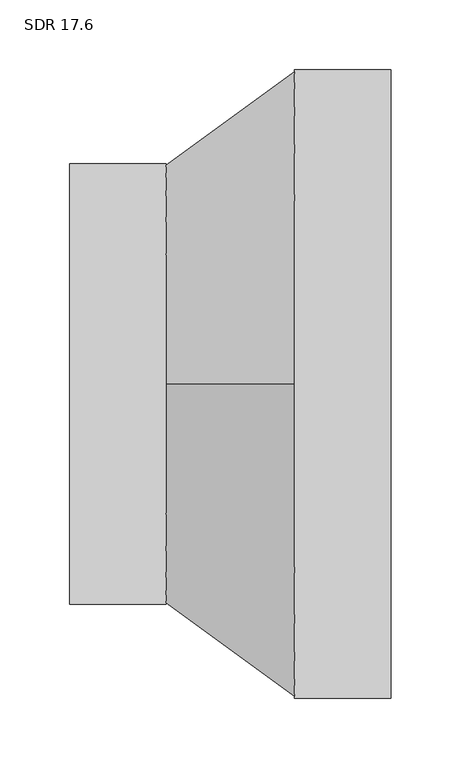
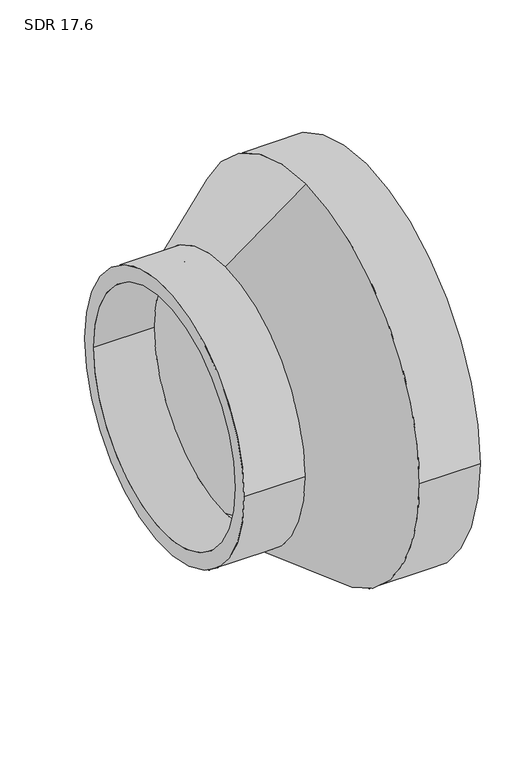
"""IFC4 building model written with IfcOpenShell, lengths in millimetres: pipe fitting geometry, Aquatherm - Reducing Coupling Combined - METRIC : SDR 17.6."""

from ifc_helpers import new_model, si_unit, frame, origin, place, context, project, spatial, polyline, circle_curve, source, transform, mapped, element, save
from ifc_brep_helpers import plane_surface, cylinder_surface, revolved_surface, advanced_brep


def sdr_17_6_6b75fab2(model_context):
    return source(origin(), model_context, "Body", "AdvancedBrep", [
        advanced_brep(
        [(-115.062, -157.48, 0.0), (-115.062, 157.48, 0.0), (-115.062, -139.5845455, 0.0), (-115.062, 139.5845455, 0.0), (-46.0248, 139.5845455, 0.0), (-46.0248, 0.0, 139.5845455), (-46.0248, -139.5845455, 0.0), (-46.0248, 0.0, -139.5845455), (-46.0248, 157.48, 0.0), (-46.0248, 0.0, -157.48), (-46.0248, -157.48, 0.0), (-46.0248, 0.0, 157.48), (115.062, -224.79, 0.0), (115.062, 224.79, 0.0), (115.062, -199.2456818, 0.0), (115.062, 199.2456818, 0.0), (46.0248, -224.79, 0.0), (46.0248, 0.0, -224.79), (46.0248, 224.79, 0.0), (46.0248, 0.0, 224.79), (46.0248, -199.2456818, 0.0), (46.0248, 0.0, 199.2456818), (46.0248, 199.2456818, 0.0), (46.0248, 0.0, -199.2456818)],
        [
            (0, 1, circle_curve(frame((-115.062, 0.0, 0.0), z_axis=(-1.0, 0.0, 0.0), x_axis=(0.0, 1.0, 0.0)), 157.48)),
            (1, 0, circle_curve(frame((-115.062, 0.0, 0.0), z_axis=(-1.0, 0.0, 0.0), x_axis=(0.0, 1.0, 0.0)), 157.48)),
            (2, 3, circle_curve(frame((-115.062, 0.0, 0.0), z_axis=(1.0, 0.0, 0.0), x_axis=(0.0, 1.0, 0.0)), 139.5845455)),
            (3, 2, circle_curve(frame((-115.062, 0.0, 0.0), z_axis=(1.0, 0.0, 0.0), x_axis=(0.0, 1.0, 0.0)), 139.5845455)),
            (3, 4),
            (4, 5, circle_curve(frame((-46.0248, 0.0, 0.0), z_axis=(1.0, 0.0, 0.0), x_axis=(0.0, 1.0, 0.0)), 139.5845455)),
            (5, 6, circle_curve(frame((-46.0248, 0.0, 0.0), z_axis=(1.0, 0.0, 0.0), x_axis=(0.0, 1.0, 0.0)), 139.5845455)),
            (6, 2),
            (6, 7, circle_curve(frame((-46.0248, 0.0, 0.0), z_axis=(1.0, 0.0, 0.0), x_axis=(0.0, 1.0, 0.0)), 139.5845455)),
            (7, 4, circle_curve(frame((-46.0248, 0.0, 0.0), z_axis=(1.0, 0.0, 0.0), x_axis=(0.0, 1.0, 0.0)), 139.5845455)),
            (1, 8),
            (8, 9, circle_curve(frame((-46.0248, 0.0, 0.0), z_axis=(-1.0, 0.0, 0.0), x_axis=(0.0, 1.0, 0.0)), 157.48)),
            (9, 10, circle_curve(frame((-46.0248, 0.0, 0.0), z_axis=(-1.0, 0.0, 0.0), x_axis=(0.0, 1.0, 0.0)), 157.48)),
            (10, 0),
            (10, 11, circle_curve(frame((-46.0248, 0.0, 0.0), z_axis=(-1.0, 0.0, 0.0), x_axis=(0.0, 1.0, 0.0)), 157.48)),
            (11, 8, circle_curve(frame((-46.0248, 0.0, 0.0), z_axis=(-1.0, 0.0, 0.0), x_axis=(0.0, 1.0, 0.0)), 157.48)),
            (12, 13, circle_curve(frame((115.062, 0.0, 0.0), z_axis=(1.0, 0.0, 0.0), x_axis=(0.0, 1.0, 0.0)), 224.79)),
            (13, 12, circle_curve(frame((115.062, 0.0, 0.0), z_axis=(1.0, 0.0, 0.0), x_axis=(0.0, 1.0, 0.0)), 224.79)),
            (14, 15, circle_curve(frame((115.062, 0.0, 0.0), z_axis=(-1.0, 0.0, 0.0), x_axis=(0.0, 1.0, 0.0)), 199.2456818)),
            (15, 14, circle_curve(frame((115.062, 0.0, 0.0), z_axis=(-1.0, 0.0, 0.0), x_axis=(0.0, 1.0, 0.0)), 199.2456818)),
            (12, 16),
            (16, 17, circle_curve(frame((46.0248, 0.0, 0.0), z_axis=(1.0, 0.0, 0.0), x_axis=(0.0, 1.0, 0.0)), 224.79)),
            (17, 18, circle_curve(frame((46.0248, 0.0, 0.0), z_axis=(1.0, 0.0, 0.0), x_axis=(0.0, 1.0, 0.0)), 224.79)),
            (18, 13),
            (18, 19, circle_curve(frame((46.0248, 0.0, 0.0), z_axis=(1.0, 0.0, 0.0), x_axis=(0.0, 1.0, 0.0)), 224.79)),
            (19, 16, circle_curve(frame((46.0248, 0.0, 0.0), z_axis=(1.0, 0.0, 0.0), x_axis=(0.0, 1.0, 0.0)), 224.79)),
            (14, 20),
            (20, 21, circle_curve(frame((46.0248, 0.0, 0.0), z_axis=(-1.0, 0.0, 0.0), x_axis=(0.0, 1.0, 0.0)), 199.2456818)),
            (21, 22, circle_curve(frame((46.0248, 0.0, 0.0), z_axis=(-1.0, 0.0, 0.0), x_axis=(0.0, 1.0, 0.0)), 199.2456818)),
            (22, 15),
            (22, 23, circle_curve(frame((46.0248, 0.0, 0.0), z_axis=(-1.0, 0.0, 0.0), x_axis=(0.0, 1.0, 0.0)), 199.2456818)),
            (23, 20, circle_curve(frame((46.0248, 0.0, 0.0), z_axis=(-1.0, 0.0, 0.0), x_axis=(0.0, 1.0, 0.0)), 199.2456818)),
            (11, 19),
            (17, 9),
            (21, 5),
            (7, 23),
        ],
        [
            plane_surface(frame((-115.062, 139.5845455, 0.0), z_axis=(-1.0, 0.0, 0.0), x_axis=(0.0, 0.0, 1.0))),
            revolved_surface(polyline([(-115.062, 139.5845455, 0.0), (-46.0248, 139.5845455, 0.0)]), (-115.062, 0.0, 0.0), (-1.0, 0.0, 0.0)),
            cylinder_surface(frame((0.0, 0.0, 0.0), z_axis=(1.0, 0.0, 0.0), x_axis=(0.0, 1.0, 0.0)), 157.48),
            plane_surface(frame((115.062, 224.79, 0.0), z_axis=(1.0, 0.0, 0.0), x_axis=(0.0, 0.0, 1.0))),
            cylinder_surface(frame((46.0248, 0.0, 0.0), z_axis=(1.0, 0.0, 0.0), x_axis=(0.0, 1.0, 0.0)), 224.79),
            revolved_surface(polyline([(46.0248, 199.2456818, 0.0), (115.062, 199.2456818, 0.0)]), (0.0, 0.0, 0.0), (-1.0, 0.0, 0.0)),
            revolved_surface(polyline([(46.0248, 0.0, 224.79), (-46.0248, 0.0, 157.48)]), (-690.3215384, 0.0, 0.0), (-1.0, 0.0, 0.0)),
            revolved_surface(polyline([(-46.0248, 0.0, 139.5845455), (46.0248, 0.0, 199.2456818)]), (-690.3215384, 0.0, 0.0), (-1.0, 0.0, 0.0)),
        ],
        [
            (0, [[1, 2], [3, 4]]),
            (1, [[-4, 5, 6, 7, 8]]),
            (1, [[-3, -8, 9, 10, -5]]),
            (2, [[-2, 11, 12, 13, 14]]),
            (2, [[-1, -14, 15, 16, -11]]),
            (3, [[17, 18], [19, 20]]),
            (4, [[-17, 21, 22, 23, 24]]),
            (4, [[-18, -24, 25, 26, -21]]),
            (5, [[-19, 27, 28, 29, 30]]),
            (5, [[-20, -30, 31, 32, -27]]),
            (6, [[33, -25, -23, 34, -12, -16]]),
            (6, [[-33, -15, -13, -34, -22, -26]]),
            (7, [[35, -6, -10, 36, -31, -29]]),
            (7, [[-35, -28, -32, -36, -9, -7]]),
        ],
    ),
    ])


if __name__ == "__main__":
    model = new_model("IFC4")
    model_context = context("Model", 3, world=origin())
    ifc_project = project(units=[si_unit("LENGTHUNIT", "METRE", prefix="MILLI")], contexts=[model_context])
    site = spatial("IfcSite", under=ifc_project)
    building = spatial("IfcBuilding", under=site)
    placement = place(None, origin())
    sdr_17_6_shape = sdr_17_6_6b75fab2(model_context)
    element("IfcPipeFitting", 1, ObjectType="Aquatherm - Reducing Coupling Combined - METRIC : SDR 17.6", at=placement, inside=building, context=model_context, shape_type="MappedRepresentation", body=[
        mapped(sdr_17_6_shape, transform((0.0, 0.0, 0.0), x_axis=(1.0, 0.0, 0.0), y_axis=(0.0, 1.0, 0.0), z_axis=(0.0, 0.0, 1.0))),
    ])
    save(model, "model.ifc")
